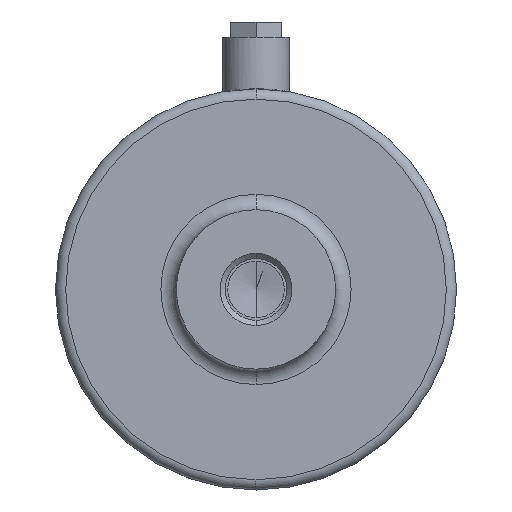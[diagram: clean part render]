
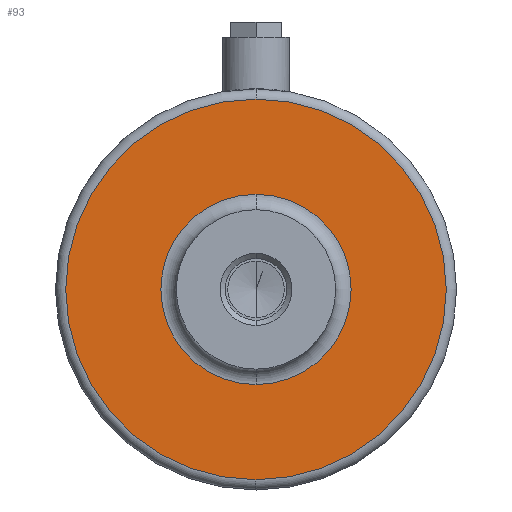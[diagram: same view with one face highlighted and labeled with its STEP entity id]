
A CAD part, front view. The second image highlights one B-rep face of the part: STEP entity #93.
In plain terms, the highlighted planar face has unit normal (0, -1, 0).
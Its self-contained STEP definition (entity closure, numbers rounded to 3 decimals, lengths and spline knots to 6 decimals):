
#93=ADVANCED_FACE('395:76',(#194,#195),#196,.T.);
#194=FACE_OUTER_BOUND('',#308,.T.);
#195=FACE_BOUND('',#309,.T.);
#196=PLANE('',#310);
#308=EDGE_LOOP('',(#635,#636));
#309=EDGE_LOOP('',(#637,#638));
#310=AXIS2_PLACEMENT_3D('',#639,#640,#641);
#635=ORIENTED_EDGE('',*,*,#759,.T.);
#636=ORIENTED_EDGE('',*,*,#784,.T.);
#637=ORIENTED_EDGE('',*,*,#789,.T.);
#638=ORIENTED_EDGE('',*,*,#752,.T.);
#639=CARTESIAN_POINT('',(-0.039,0.,0.));
#640=DIRECTION('',(0.0,-1.0,0.0));
#641=DIRECTION('',(0.0,0.0,-1.0));
#752=EDGE_CURVE('395:145',#902,#900,#903,.T.);
#759=EDGE_CURVE('395:133',#910,#912,#914,.T.);
#784=EDGE_CURVE('395:133',#912,#910,#951,.T.);
#789=EDGE_CURVE('395:145',#900,#902,#956,.T.);
#900=VERTEX_POINT('NONE',#1163);
#902=VERTEX_POINT('',#1165);
#903=CIRCLE('',#1166,0.0185);
#910=VERTEX_POINT('NONE',#1173);
#912=VERTEX_POINT('',#1175);
#914=CIRCLE('',#1177,0.037);
#951=CIRCLE('',#1281,0.037);
#956=CIRCLE('',#1286,0.0185);
#1163=CARTESIAN_POINT('',(0.0,0.,-0.0185));
#1165=CARTESIAN_POINT('',(0.,0.,0.0185));
#1166=AXIS2_PLACEMENT_3D('',#1443,#1444,#1445);
#1173=CARTESIAN_POINT('',(0.0,0.,-0.037));
#1175=CARTESIAN_POINT('',(0.,0.,0.037));
#1177=AXIS2_PLACEMENT_3D('',#1464,#1465,#1466);
#1281=AXIS2_PLACEMENT_3D('',#1513,#1514,#1515);
#1286=AXIS2_PLACEMENT_3D('',#1528,#1529,#1530);
#1443=CARTESIAN_POINT('',(0.0,0.,0.));
#1444=DIRECTION('',(0.0,1.0,0.0));
#1445=DIRECTION('',(0.0,0.0,-1.0));
#1464=CARTESIAN_POINT('',(0.0,0.,0.));
#1465=DIRECTION('',(0.0,-1.0,0.0));
#1466=DIRECTION('',(0.0,0.0,-1.0));
#1513=CARTESIAN_POINT('',(0.0,0.,0.));
#1514=DIRECTION('',(0.0,-1.0,0.0));
#1515=DIRECTION('',(0.0,0.0,-1.0));
#1528=CARTESIAN_POINT('',(0.0,0.,0.));
#1529=DIRECTION('',(0.0,1.0,0.0));
#1530=DIRECTION('',(0.0,0.0,-1.0));
